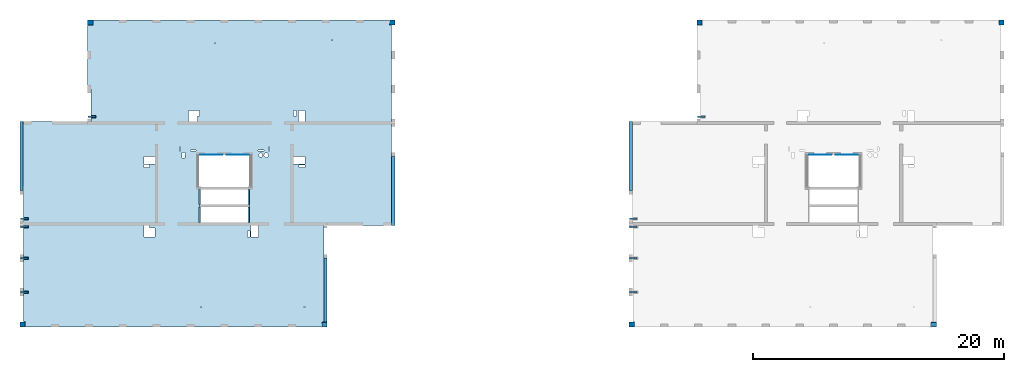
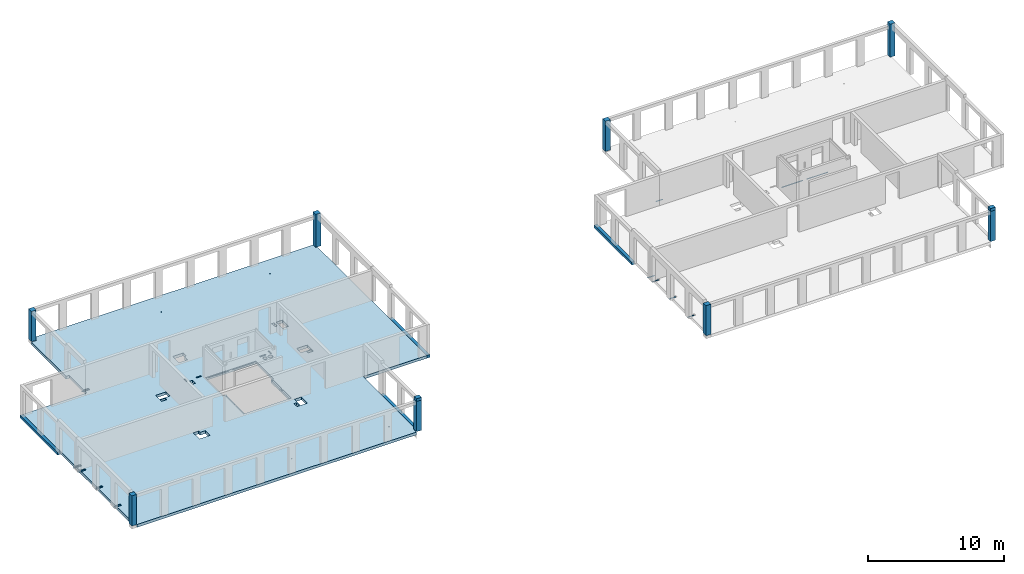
# One storey, part 1 of 8: 14 beams, 10 columns, 5 slabs, 35 openings.
"""IFC2X3 building model written with IfcOpenShell, lengths in millimetres."""

from ifc_helpers import new_model, entity, si_unit, converted_unit, derived_unit, direction, frame, frame_2d, origin, origin_2d_with_axis, place, context, subcontext, project, spatial, polyline, rectangle, circle, outline, extrude, source, transform, mapped, material, layer, layer_set, layer_usage, type_object, type_shapes, element, save


model = new_model("IFC2X3")

# Units and contexts
model_context = context("Model", 3, precision=0.01, world=origin(), true_north=direction((6.12303176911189e-17, 1.0)))
body_context = subcontext(model_context, "Body", "Model", "MODEL_VIEW")
ifc_project = project(units=[si_unit("LENGTHUNIT", "METRE", prefix="MILLI"), si_unit("AREAUNIT", "SQUARE_METRE"), si_unit("VOLUMEUNIT", "CUBIC_METRE"), converted_unit("PLANEANGLEUNIT", "DEGREE", entity("IfcRatioMeasure", 0.0174532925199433), si_unit("PLANEANGLEUNIT", "RADIAN"), dimensions=[0, 0, 0, 0, 0, 0, 0]), si_unit("MASSUNIT", "GRAM", prefix="KILO"), derived_unit("MASSDENSITYUNIT", [(si_unit("MASSUNIT", "GRAM", prefix="KILO"), 1), (si_unit("LENGTHUNIT", "METRE"), -3)]), si_unit("TIMEUNIT", "SECOND"), si_unit("FREQUENCYUNIT", "HERTZ"), si_unit("THERMODYNAMICTEMPERATUREUNIT", "DEGREE_CELSIUS"), derived_unit("THERMALTRANSMITTANCEUNIT", [(si_unit("MASSUNIT", "GRAM", prefix="KILO"), 1), (si_unit("THERMODYNAMICTEMPERATUREUNIT", "KELVIN"), -1), (si_unit("TIMEUNIT", "SECOND"), -3)]), derived_unit("VOLUMETRICFLOWRATEUNIT", [(si_unit("LENGTHUNIT", "METRE"), 3), (si_unit("TIMEUNIT", "SECOND"), -1)]), si_unit("ELECTRICCURRENTUNIT", "AMPERE"), si_unit("ELECTRICVOLTAGEUNIT", "VOLT"), si_unit("POWERUNIT", "WATT"), si_unit("FORCEUNIT", "NEWTON", prefix="KILO"), si_unit("ILLUMINANCEUNIT", "LUX"), si_unit("LUMINOUSFLUXUNIT", "LUMEN"), si_unit("LUMINOUSINTENSITYUNIT", "CANDELA"), derived_unit("USERDEFINED", [(si_unit("MASSUNIT", "GRAM", prefix="KILO"), -1), (si_unit("LENGTHUNIT", "METRE"), -2), (si_unit("TIMEUNIT", "SECOND"), 3), (si_unit("LUMINOUSFLUXUNIT", "LUMEN"), 1)]), derived_unit("LINEARVELOCITYUNIT", [(si_unit("LENGTHUNIT", "METRE"), 1), (si_unit("TIMEUNIT", "SECOND"), -1)]), si_unit("PRESSUREUNIT", "PASCAL"), derived_unit("USERDEFINED", [(si_unit("LENGTHUNIT", "METRE"), -2), (si_unit("MASSUNIT", "GRAM", prefix="KILO"), 1), (si_unit("TIMEUNIT", "SECOND"), -2)])], contexts=[model_context])

# Site, building, storey
site_placement = place(None, origin())
site = spatial("IfcSite", under=ifc_project, at=site_placement, Name="Default", CompositionType="ELEMENT")
building_placement = place(site_placement, origin())
building = spatial("IfcBuilding", under=site, at=building_placement, Name="niet gebruiken", CompositionType="ELEMENT")
storey_placement = place(building_placement, frame((0.0, 0.0, 42300.0)))
storey = spatial("IfcBuildingStorey", under=building, at=storey_placement, Name="14 veertiende verdieping", CompositionType="ELEMENT", Elevation=42300.0)

# Columns
ifc_material_1 = material(Name="NLRS_f2_beton prefab")
column_type_1 = type_object("IfcColumnType", Name="410x410", PredefinedType="COLUMN", material=ifc_material_1)
shared_shape_1 = source(origin(), body_context, "Body", "SweptSolid", [
    extrude(rectangle(XDim=410.0, YDim=410.0, at=origin_2d_with_axis()), frame((0.0, 0.0, 42230.0), z_axis=(0.0, 0.0, 1.0), x_axis=(0.0, -1.0, 0.0)), (0.0, 0.0, 1.0), 2699.99999999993),
])
type_shapes(column_type_1, [shared_shape_1])
for number, where, name in (
    (1, (99795.0, 28961.0, -42300.0), "NLRS_28. kolom vierkant_gen:410x410"),
    (2, (81105.0, 53051.0, -42300.0), "NLRS_28. kolom vierkant_gen:410x410"),
    (3, (51195.0, 28961.0, -42300.0), "NLRS_28. kolom vierkant_gen:410x410"),
    (4, (32505.0, 53051.0, -42300.0), "NLRS_28. kolom vierkant_gen:410x410"),
):
    element("IfcColumn", number, at=place(storey_placement, frame(where)), inside=storey, type_object=column_type_1, material=ifc_material_1, Name=name, ObjectType="410x410", context=body_context, shape_type="MappedRepresentation", body=[
        mapped(shared_shape_1, transform((0.0, 0.0, 0.0), scale=1.0)),
    ])
column_type_2 = type_object("IfcColumnType", Name="410x410", PredefinedType="COLUMN", material=ifc_material_1)
shared_shape_2 = source(origin(), body_context, "Body", "SweptSolid", [
    extrude(rectangle(XDim=410.0, YDim=410.0, at=origin_2d_with_axis()), frame((0.0, 0.0, 42230.0), z_axis=(0.0, 0.0, 1.0), x_axis=(0.0, -1.0, 0.0)), (0.0, 0.0, 1.0), 2700.0),
])
type_shapes(column_type_2, [shared_shape_2])
for number, where, z_axis, x_axis, name in (
    (5, (75705.0, 28961.0, -42300.0), (0.0, 0.0, 1.0), (0.0, 1.0, 0.0), "NLRS_28. kolom vierkant_gen1:410x410"),
    (6, (27105.0, 28961.0, -42300.0), (0.0, 0.0, 1.0), (0.0, 1.0, 0.0), "NLRS_28. kolom vierkant_gen1:410x410"),
):
    element("IfcColumn", number, at=place(storey_placement, frame(where, z_axis=z_axis, x_axis=x_axis)), inside=storey, type_object=column_type_2, material=ifc_material_1, Name=name, ObjectType="410x410", context=body_context, shape_type="MappedRepresentation", body=[
        mapped(shared_shape_2, transform((0.0, 0.0, 0.0), scale=1.0)),
    ])
column_type_3 = type_object("IfcColumnType", Name="410x410", PredefinedType="COLUMN", material=ifc_material_1)
shared_shape_3 = source(origin(), body_context, "Body", "SweptSolid", [
    extrude(rectangle(XDim=410.000000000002, YDim=409.999999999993, at=origin_2d_with_axis()), frame((105195.0, 53051.0, 42230.0), z_axis=(0.0, 0.0, 1.0), x_axis=(0.0, -1.0, 0.0)), (0.0, 0.0, 1.0), 2950.00000000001),
])
type_shapes(column_type_3, [shared_shape_3])
column_1_placement = place(storey_placement, frame((0.0, 0.0, -42300.0)))
element("IfcColumn", 7, at=column_1_placement, inside=storey, type_object=column_type_3, material=ifc_material_1, Name="NLRS_28. kolom vierkant_gen:410x410", ObjectType="410x410", context=body_context, shape_type="MappedRepresentation", body=[
    mapped(shared_shape_3, transform((0.0, 0.0, 0.0), scale=1.0)),
])
column_type_4 = type_object("IfcColumnType", Name="410x410", PredefinedType="COLUMN", material=ifc_material_1)
shared_shape_4 = source(origin(), body_context, "Body", "SweptSolid", [
    extrude(rectangle(XDim=410.000000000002, YDim=410.000000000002, at=frame_2d((8.66862137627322e-12, 0.0), x_axis=(1.0, 0.0))), frame((56595.0, 53051.0, 42230.0), z_axis=(0.0, 0.0, 1.0), x_axis=(0.0, -1.0, 0.0)), (0.0, 0.0, 1.0), 2950.00000000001),
])
type_shapes(column_type_4, [shared_shape_4])
column_2_placement = place(storey_placement, frame((0.0, 0.0, -42300.0)))
element("IfcColumn", 8, at=column_2_placement, inside=storey, type_object=column_type_4, material=ifc_material_1, Name="NLRS_28. kolom vierkant_gen:410x410", ObjectType="410x410", context=body_context, shape_type="MappedRepresentation", body=[
    mapped(shared_shape_4, transform((0.0, 0.0, 0.0), scale=1.0)),
])
column_type_5 = type_object("IfcColumnType", Name="410x360", PredefinedType="COLUMN", material=ifc_material_1)
shared_shape_5 = source(origin(), body_context, "Body", "SweptSolid", [
    extrude(rectangle(XDim=360.0, YDim=409.999999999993, at=origin_2d_with_axis()), frame((99795.0, 28936.0, 44930.0), z_axis=(0.0, 0.0, 1.0), x_axis=(0.0, -1.0, 0.0)), (0.0, 0.0, 1.0), 250.000000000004),
])
type_shapes(column_type_5, [shared_shape_5])
column_3_placement = place(storey_placement, frame((0.0, 0.0, -42300.0)))
element("IfcColumn", 9, at=column_3_placement, inside=storey, type_object=column_type_5, material=ifc_material_1, Name="NLRS_28. kolom vierkant_gen:410x360", ObjectType="410x360", context=body_context, shape_type="MappedRepresentation", body=[
    mapped(shared_shape_5, transform((0.0, 0.0, 0.0), scale=1.0)),
])
column_type_6 = type_object("IfcColumnType", Name="410x360", PredefinedType="COLUMN", material=ifc_material_1)
shared_shape_6 = source(origin(), body_context, "Body", "SweptSolid", [
    extrude(rectangle(XDim=360.0, YDim=410.000000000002, at=origin_2d_with_axis()), frame((51195.0, 28936.0, 44930.0), z_axis=(0.0, 0.0, 1.0), x_axis=(0.0, -1.0, 0.0)), (0.0, 0.0, 1.0), 250.000000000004),
])
type_shapes(column_type_6, [shared_shape_6])
column_4_placement = place(storey_placement, frame((0.0, 0.0, -42300.0)))
element("IfcColumn", 10, at=column_4_placement, inside=storey, type_object=column_type_6, material=ifc_material_1, Name="NLRS_28. kolom vierkant_gen:410x360", ObjectType="410x360", context=body_context, shape_type="MappedRepresentation", body=[
    mapped(shared_shape_6, transform((0.0, 0.0, 0.0), scale=1.0)),
])

# Beams
ifc_material_2 = material(Name="NLRS_h2_staal")
beam_type_1 = type_object("IfcBeamType", Name="ligger stripstaal RECT_120x10", PredefinedType="BEAM", material=ifc_material_2)
shared_shape_7 = source(origin(), body_context, "Body", "SweptSolid", [
    extrude(rectangle(XDim=599.999999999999, YDim=120.0, at=origin_2d_with_axis()), frame((0.0, 0.0, -5.0), z_axis=(0.0, 0.0, 1.0), x_axis=(-1.0, 0.0, 0.0)), (0.0, 0.0, 1.0), 9.99999999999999),
    extrude(rectangle(XDim=599.999999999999, YDim=120.0, at=origin_2d_with_axis()), frame((0.0, 0.0, -5.0), z_axis=(0.0, 0.0, 1.0), x_axis=(-1.0, 0.0, 0.0)), (0.0, 0.0, 1.0), 9.99999999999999),
])
type_shapes(beam_type_1, [shared_shape_7])
for number, where, name in (
    (11, (75835.0, 31556.0, -115.0), "NLRS_28.11_SF_WPB_stalen ligger stripstaal_gen:ligger stripstaal RECT_120x10"),
    (12, (75835.0, 34256.0, -115.0), "NLRS_28.11_SF_WPB_stalen ligger stripstaal_gen:ligger stripstaal RECT_120x10"),
    (13, (75835.0, 36766.0, -115.0), "NLRS_28.11_SF_WPB_stalen ligger stripstaal_gen:ligger stripstaal RECT_120x10"),
    (14, (27235.0, 31556.0, -115.0), "NLRS_28.11_SF_WPB_stalen ligger stripstaal_gen:ligger stripstaal RECT_120x10"),
    (15, (27235.0, 34256.0, -115.0), "NLRS_28.11_SF_WPB_stalen ligger stripstaal_gen:ligger stripstaal RECT_120x10"),
    (16, (27235.0, 36766.0, -115.0), "NLRS_28.11_SF_WPB_stalen ligger stripstaal_gen:ligger stripstaal RECT_120x10"),
):
    element("IfcBeam", number, at=place(storey_placement, frame(where)), inside=storey, type_object=beam_type_1, material=ifc_material_2, Name=name, ObjectType="ligger stripstaal RECT_120x10", context=body_context, shape_type="MappedRepresentation", body=[
        mapped(shared_shape_7, transform((0.0, 0.0, 0.0), scale=1.0)),
    ])
beam_type_2 = type_object("IfcBeamType", Name="NLRS_28.11_SF_WPB_Halfen 40-22_gen:ligger stripstaal RECT_100x10", PredefinedType="BEAM")
beam_1_placement = place(storey_placement, frame((89865.0, 42496.0, -160.0)))
element("IfcBeam", 17, at=beam_1_placement, inside=storey, type_object=beam_type_2, material=ifc_material_2, Name="NLRS_28.11_SF_WPB_Halfen 40-22_gen:ligger stripstaal RECT_100x10", ObjectType="NLRS_28.11_SF_WPB_Halfen 40-22_gen:ligger stripstaal RECT_100x10", context=body_context, shape_type="SweptSolid", body=[
    extrude(outline(polyline([(-20.0, -8.0), (-9.0, -8.0), (-9.0, 0.0), (-11.0, 0.0), (-11.0, -6.0), (-18.0, -6.0), (-18.0, 13.0), (18.0, 13.0), (18.0, -6.0), (11.0, -6.0), (11.0, 0.0), (9.0, 0.0), (9.0, -8.0), (20.0, -8.0), (20.0, 15.0), (-20.0, 15.0), (-20.0, -8.0)])), frame((0.0, 8.0, 20.0), z_axis=(1.0, 0.0, 0.0), x_axis=(0.0, 0.0, -1.0)), (0.0, 0.0, 1.0), 1760.00000000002),
])
beam_2_placement = place(storey_placement, frame((91975.0, 42496.0, -160.0)))
element("IfcBeam", 18, at=beam_2_placement, inside=storey, type_object=beam_type_2, material=ifc_material_2, Name="NLRS_28.11_SF_WPB_Halfen 40-22_gen:ligger stripstaal RECT_100x10", ObjectType="NLRS_28.11_SF_WPB_Halfen 40-22_gen:ligger stripstaal RECT_100x10", context=body_context, shape_type="SweptSolid", body=[
    extrude(outline(polyline([(-20.0, -8.0), (-9.0, -8.0), (-9.0, 0.0), (-11.0, 0.0), (-11.0, -6.0), (-18.0, -6.0), (-18.0, 13.0), (18.0, 13.0), (18.0, -6.0), (11.0, -6.0), (11.0, 0.0), (9.0, 0.0), (9.0, -8.0), (20.0, -8.0), (20.0, 15.0), (-20.0, 15.0), (-20.0, -8.0)])), frame((0.0, 8.0, 20.0), z_axis=(1.0, 0.0, 0.0), x_axis=(0.0, 0.0, -1.0)), (0.0, 0.0, 1.0), 1760.0),
])
for number, where, name in (
    (19, (41264.9998491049, 42496.0, -160.0), "NLRS_28.11_SF_WPB_Halfen 40-22_gen:ligger stripstaal RECT_100x10"),
    (20, (43374.999849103, 42496.0, -160.0), "NLRS_28.11_SF_WPB_Halfen 40-22_gen:ligger stripstaal RECT_100x10"),
):
    element("IfcBeam", number, at=place(storey_placement, frame(where)), inside=storey, type_object=beam_type_2, material=ifc_material_2, Name=name, ObjectType="NLRS_28.11_SF_WPB_Halfen 40-22_gen:ligger stripstaal RECT_100x10", context=body_context, shape_type="SweptSolid", body=[
        extrude(outline(polyline([(-20.0, -8.0), (-9.0, -8.0), (-9.0, 0.0), (-11.0, 0.0), (-11.0, -6.0), (-18.0, -6.0), (-18.0, 13.0), (18.0, 13.0), (18.0, -6.0), (11.0, -6.0), (11.0, 0.0), (9.0, 0.0), (9.0, -8.0), (20.0, -8.0), (20.0, 15.0), (-20.0, 15.0), (-20.0, -8.0)])), frame((0.0, 8.0, 20.0), z_axis=(1.0, 0.0, 0.0), x_axis=(0.0, 0.0, -1.0)), (0.0, 0.0, 1.0), 1760.00000000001),
    ])
beam_type_3 = type_object("IfcBeamType", Name="ligger stripstaal RECT_120x10", PredefinedType="BEAM", material=ifc_material_2)
shared_shape_8 = source(origin(), body_context, "Body", "SweptSolid", [
    extrude(rectangle(XDim=120.0, YDim=600.000000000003, at=origin_2d_with_axis()), frame((0.0, 0.0, -5.0), z_axis=(0.0, 0.0, 1.0), x_axis=(0.0, 1.0, 0.0)), (0.0, 0.0, 1.0), 9.99999999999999),
    extrude(rectangle(XDim=120.0, YDim=600.000000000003, at=origin_2d_with_axis()), frame((0.0, 0.0, -5.0), z_axis=(0.0, 0.0, 1.0), x_axis=(0.0, 1.0, 0.0)), (0.0, 0.0, 1.0), 9.99999999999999),
])
type_shapes(beam_type_3, [shared_shape_8])
for number, where, name in (
    (21, (75835.0, 37386.0, -115.0), "NLRS_28.11_SF_WPB_stalen ligger stripstaal_gen:ligger stripstaal RECT_120x10"),
    (22, (81235.0, 45521.0, -115.0), "NLRS_28.11_SF_WPB_stalen ligger stripstaal_gen:ligger stripstaal RECT_120x10"),
    (23, (27235.0, 37386.0, -115.0), "NLRS_28.11_SF_WPB_stalen ligger stripstaal_gen:ligger stripstaal RECT_120x10"),
    (24, (32635.0, 45521.0, -115.0), "NLRS_28.11_SF_WPB_stalen ligger stripstaal_gen:ligger stripstaal RECT_120x10"),
):
    element("IfcBeam", number, at=place(storey_placement, frame(where)), inside=storey, type_object=beam_type_3, material=ifc_material_2, Name=name, ObjectType="ligger stripstaal RECT_120x10", context=body_context, shape_type="MappedRepresentation", body=[
        mapped(shared_shape_8, transform((0.0, 0.0, 0.0), scale=1.0)),
    ])

# Slab, openings
ifc_material_3 = material(Name="NLRS_f2_beton ihwg")
ifc_layer = layer(ifc_material_3, 250.0)
ifc_layer_set = layer_set([ifc_layer], Name="Floor:NLRS_23.21_FL_beton ihwg d=250_gen")
ifc_layer_usage_1 = layer_usage(ifc_layer_set, "AXIS3", "POSITIVE", 0.0)
slab_1_placement = place(storey_placement, frame((27150.0, 28756.0, -340.0)))
slab_1 = element("IfcSlab", 25, at=slab_1_placement, inside=storey, material=ifc_layer_usage_1, Name="Floor:NLRS_23.21_FL_beton ihwg d=250_gen", ObjectType="Floor:NLRS_23.21_FL_beton ihwg d=250_gen", PredefinedType="FLOOR", context=body_context, shape_type="SweptSolid", body=[
    extrude(outline(polyline([(9119.99996701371, 12250.0), (-14540.0, 12250.0), (-14540.0, 11840.0), (-14680.0, 11840.0), (-14680.0, 4060.0), (-14700.0, 4060.0), (-14700.0, -4150.0), (-9300.0, -4150.0), (-9300.0, -11890.0), (-9140.0, -11890.0), (-9140.0, -12250.0), (14520.0, -12250.0), (14520.0, -11820.0), (14660.0, -11820.0), (14660.0, -4060.0), (14680.0, -4060.0), (14680.0, -1040.0), (14950.0, -1040.0), (14950.0, 4150.0), (9280.0, 4150.0), (9280.0, 6750.0), (9550.0, 6750.0), (9550.0, 11820.0), (9119.99996701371, 11820.0), (9119.99996701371, 12250.0)])), frame((14700.0, 12250.0, 250.0), z_axis=(0.0, 0.0, -1.0), x_axis=(-1.0, 0.0, 0.0)), (0.0, 0.0, 1.0), 250.000000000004),
])
opening_1_placement = place(storey_placement, frame((27150.0, 28756.0, -340.0)))
element("IfcOpeningElement", 26, at=opening_1_placement, cuts=slab_1, ObjectType="Opening", context=body_context, shape_type="SweptSolid", body=[
    extrude(circle(Radius=37.5, at=frame_2d((-7750.0, -10650.0), x_axis=(1.0, 0.0))), frame((14700.0, 12250.0, 250.0), z_axis=(0.0, 0.0, -1.0), x_axis=(-1.0, 0.0, 0.0)), (0.0, 0.0, 1.0), 250.000000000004),
])
opening_2_placement = place(storey_placement, frame((27150.0, 28756.0, -340.0)))
element("IfcOpeningElement", 27, at=opening_2_placement, cuts=slab_1, ObjectType="Opening", context=body_context, shape_type="SweptSolid", body=[
    extrude(circle(Radius=37.5, at=frame_2d((-9950.0, 10650.0), x_axis=(1.0, 0.0))), frame((14700.0, 12250.0, 250.0), z_axis=(0.0, 0.0, -1.0), x_axis=(-1.0, 0.0, 0.0)), (0.0, 0.0, 1.0), 250.000000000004),
])
opening_3_placement = place(storey_placement, frame((27150.0, 28756.0, -340.0)))
element("IfcOpeningElement", 28, at=opening_3_placement, cuts=slab_1, ObjectType="Opening", context=body_context, shape_type="SweptSolid", body=[
    extrude(circle(Radius=37.5, at=frame_2d((-600.0, 10400.0), x_axis=(1.0, 0.0))), frame((14700.0, 12250.0, 250.0), z_axis=(0.0, 0.0, -1.0), x_axis=(-1.0, 0.0, 0.0)), (0.0, 0.0, 1.0), 250.000000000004),
])
opening_4_placement = place(storey_placement, frame((27150.0, 28756.0, -340.0)))
element("IfcOpeningElement", 29, at=opening_4_placement, cuts=slab_1, ObjectType="Opening", context=body_context, shape_type="SweptSolid", body=[
    extrude(circle(Radius=37.5, at=frame_2d((500.0, -10650.0), x_axis=(1.0, 0.0))), frame((14700.0, 12250.0, 250.0), z_axis=(0.0, 0.0, -1.0), x_axis=(-1.0, 0.0, 0.0)), (0.0, 0.0, 1.0), 250.000000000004),
])
opening_5_placement = place(slab_1_placement, origin())
element("IfcOpeningElement", 30, at=opening_5_placement, cuts=slab_1, ObjectType="Opening", context=body_context, shape_type="SweptSolid", body=[
    extrude(rectangle(XDim=110.000000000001, YDim=1220.0, at=origin_2d_with_axis()), frame((14094.9999671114, 10380.0, 210.0)), (0.0, 0.0, 1.0), 39.9999999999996),
])
opening_6_placement = place(slab_1_placement, origin())
element("IfcOpeningElement", 31, at=opening_6_placement, cuts=slab_1, ObjectType="Opening", context=body_context, shape_type="SweptSolid", body=[
    extrude(rectangle(XDim=110.000000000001, YDim=1220.0, at=origin_2d_with_axis()), frame((18005.0, 10380.0, 210.0)), (0.0, 0.0, 1.0), 39.9999999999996),
])
opening_7_placement = place(slab_1_placement, origin())
element("IfcOpeningElement", 32, at=opening_7_placement, cuts=slab_1, ObjectType="Opening", context=body_context, shape_type="SweptSolid", body=[
    extrude(rectangle(XDim=110.000000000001, YDim=1220.0, at=origin_2d_with_axis()), frame((18005.0, 8960.0, 210.0)), (0.0, 0.0, 1.0), 39.9999999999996),
])
opening_8_placement = place(slab_1_placement, origin())
element("IfcOpeningElement", 33, at=opening_8_placement, cuts=slab_1, ObjectType="Opening", context=body_context, shape_type="SweptSolid", body=[
    extrude(rectangle(XDim=110.000000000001, YDim=1220.0, at=origin_2d_with_axis()), frame((14094.9999671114, 8960.0, 210.0)), (0.0, 0.0, 1.0), 39.9999999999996),
])
opening_9_placement = place(slab_1_placement, origin())
element("IfcOpeningElement", 34, at=opening_9_placement, cuts=slab_1, ObjectType="Opening", context=body_context, shape_type="SweptSolid", body=[
    extrude(rectangle(XDim=400.000000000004, YDim=200.000000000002, at=origin_2d_with_axis()), frame((220.0, 8630.0, 220.0)), (0.0, 0.0, 1.0), 30.0000000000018),
])
opening_10_placement = place(slab_1_placement, origin())
element("IfcOpeningElement", 35, at=opening_10_placement, cuts=slab_1, ObjectType="Opening", context=body_context, shape_type="SweptSolid", body=[
    extrude(rectangle(XDim=200.000000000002, YDim=400.000000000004, at=origin_2d_with_axis()), frame((240.0, 8000.0, 220.0), z_axis=(0.0, 0.0, 1.0), x_axis=(0.0, -1.0, 0.0)), (0.0, 0.0, 1.0), 30.0000000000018),
])
opening_11_placement = place(slab_1_placement, origin())
element("IfcOpeningElement", 36, at=opening_11_placement, cuts=slab_1, ObjectType="Opening", context=body_context, shape_type="SweptSolid", body=[
    extrude(rectangle(XDim=200.000000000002, YDim=400.000000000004, at=origin_2d_with_axis()), frame((240.0, 5500.0, 220.0), z_axis=(0.0, 0.0, 1.0), x_axis=(0.0, -1.0, 0.0)), (0.0, 0.0, 1.0), 30.0000000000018),
])
opening_12_placement = place(slab_1_placement, origin())
element("IfcOpeningElement", 37, at=opening_12_placement, cuts=slab_1, ObjectType="Opening", context=body_context, shape_type="SweptSolid", body=[
    extrude(rectangle(XDim=200.000000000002, YDim=400.000000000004, at=origin_2d_with_axis()), frame((240.0, 2800.0, 220.0), z_axis=(0.0, 0.0, 1.0), x_axis=(0.0, -1.0, 0.0)), (0.0, 0.0, 1.0), 30.0000000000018),
])
opening_13_placement = place(slab_1_placement, origin())
element("IfcOpeningElement", 38, at=opening_13_placement, cuts=slab_1, ObjectType="Opening", context=body_context, shape_type="SweptSolid", body=[
    extrude(rectangle(XDim=400.000000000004, YDim=199.999999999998, at=origin_2d_with_axis()), frame((5620.0, 16765.0, 220.0)), (0.0, 0.0, 1.0), 30.0000000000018),
])
opening_14_placement = place(slab_1_placement, origin())
element("IfcOpeningElement", 39, at=opening_14_placement, cuts=slab_1, ObjectType="Opening", context=body_context, shape_type="SweptSolid", body=[
    extrude(rectangle(XDim=900.000000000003, YDim=729.999999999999, at=origin_2d_with_axis()), frame((13550.0, 16850.0, 0.0), z_axis=(0.0, 0.0, 1.0), x_axis=(0.0, 1.0, 0.0)), (0.0, 0.0, 1.0), 250.000000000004),
])
opening_15_placement = place(slab_1_placement, origin())
element("IfcOpeningElement", 40, at=opening_15_placement, cuts=slab_1, ObjectType="Opening", context=body_context, shape_type="SweptSolid", body=[
    extrude(rectangle(XDim=170.000000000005, YDim=450.000000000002, at=origin_2d_with_axis()), frame((14000.0, 17075.0, 0.0), z_axis=(0.0, 0.0, 1.0), x_axis=(-1.0, 0.0, 0.0)), (0.0, 0.0, 1.0), 250.000000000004),
])
opening_16_placement = place(slab_1_placement, origin())
element("IfcOpeningElement", 41, at=opening_16_placement, cuts=slab_1, ObjectType="Opening", context=body_context, shape_type="SweptSolid", body=[
    extrude(rectangle(XDim=900.000000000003, YDim=700.000000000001, at=origin_2d_with_axis()), frame((10075.0, 7550.0, 0.0), z_axis=(0.0, 0.0, 1.0), x_axis=(-1.0, 0.0, 0.0)), (0.0, 0.0, 1.0), 250.000000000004),
])
opening_17_placement = place(slab_1_placement, origin())
element("IfcOpeningElement", 42, at=opening_17_placement, cuts=slab_1, ObjectType="Opening", context=body_context, shape_type="SweptSolid", body=[
    extrude(rectangle(XDim=200.000000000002, YDim=450.000000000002, at=origin_2d_with_axis()), frame((9850.0, 8000.0, 0.0), z_axis=(0.0, 0.0, 1.0), x_axis=(0.0, -1.0, 0.0)), (0.0, 0.0, 1.0), 250.000000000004),
])
opening_18_placement = place(slab_1_placement, origin())
element("IfcOpeningElement", 43, at=opening_18_placement, cuts=slab_1, ObjectType="Opening", context=body_context, shape_type="SweptSolid", body=[
    extrude(rectangle(XDim=900.000000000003, YDim=600.000000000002, at=origin_2d_with_axis()), frame((10075.0, 13330.0, 0.0), z_axis=(0.0, 0.0, 1.0), x_axis=(-1.0, 0.0, 0.0)), (0.0, 0.0, 1.0), 250.000000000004),
])
opening_19_placement = place(slab_1_placement, origin())
element("IfcOpeningElement", 44, at=opening_19_placement, cuts=slab_1, ObjectType="Opening", context=body_context, shape_type="SweptSolid", body=[
    extrude(rectangle(XDim=900.000000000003, YDim=499.999999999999, at=origin_2d_with_axis()), frame((22225.0, 16850.0, 0.0), z_axis=(0.0, 0.0, 1.0), x_axis=(0.0, 1.0, 0.0)), (0.0, 0.0, 1.0), 250.000000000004),
])
opening_20_placement = place(slab_1_placement, origin())
element("IfcOpeningElement", 45, at=opening_20_placement, cuts=slab_1, ObjectType="Opening", context=body_context, shape_type="SweptSolid", body=[
    extrude(rectangle(XDim=899.999999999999, YDim=600.000000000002, at=origin_2d_with_axis()), frame((18479.9818996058, 7650.0, 0.0), z_axis=(0.0, 0.0, 1.0), x_axis=(0.0, 1.0, 0.0)), (0.0, 0.0, 1.0), 250.000000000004),
])
opening_21_placement = place(slab_1_placement, origin())
element("IfcOpeningElement", 46, at=opening_21_placement, cuts=slab_1, ObjectType="Opening", context=body_context, shape_type="SweptSolid", body=[
    extrude(rectangle(XDim=900.000000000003, YDim=600.000000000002, at=origin_2d_with_axis()), frame((22025.0, 13330.0, 0.0), z_axis=(0.0, 0.0, 1.0), x_axis=(-1.0, 0.0, 0.0)), (0.0, 0.0, 1.0), 250.000000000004),
])
opening_22_placement = place(slab_1_placement, origin())
element("IfcOpeningElement", 47, at=opening_22_placement, cuts=slab_1, ObjectType="Opening", context=body_context, shape_type="SweptSolid", body=[
    extrude(rectangle(XDim=1760.00000000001, YDim=23.0000000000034, at=origin_2d_with_axis()), frame((14994.9998491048, 13751.5, 180.0)), (0.0, 0.0, 1.0), 40.0000000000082),
])
opening_23_placement = place(slab_1_placement, origin())
element("IfcOpeningElement", 48, at=opening_23_placement, cuts=slab_1, ObjectType="Opening", context=body_context, shape_type="SweptSolid", body=[
    extrude(rectangle(XDim=1760.00000000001, YDim=23.0000000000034, at=origin_2d_with_axis()), frame((17104.999849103, 13751.5, 180.0)), (0.0, 0.0, 1.0), 40.0000000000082),
])
opening_24_placement = place(slab_1_placement, origin())
element("IfcOpeningElement", 49, at=opening_24_placement, cuts=slab_1, ObjectType="Opening", context=body_context, shape_type="SweptSolid", body=[
    extrude(rectangle(XDim=100.000000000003, YDim=340.000000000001, at=origin_2d_with_axis()), frame((19615.0, 14210.0, 0.0), z_axis=(0.0, 0.0, 1.0), x_axis=(-1.0, 0.0, 0.0)), (0.0, 0.0, 1.0), 250.000000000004),
])
opening_25_placement = place(slab_1_placement, origin())
element("IfcOpeningElement", 50, at=opening_25_placement, cuts=slab_1, ObjectType="Opening", context=body_context, shape_type="SweptSolid", body=[
    extrude(rectangle(XDim=100.000000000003, YDim=490.000000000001, at=origin_2d_with_axis()), frame((18975.0, 14090.0, 0.0), z_axis=(0.0, 0.0, 1.0), x_axis=(0.0, -1.0, 0.0)), (0.0, 0.0, 1.0), 250.000000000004),
])
opening_26_placement = place(slab_1_placement, origin())
element("IfcOpeningElement", 51, at=opening_26_placement, cuts=slab_1, ObjectType="Opening", context=body_context, shape_type="SweptSolid", body=[
    extrude(rectangle(XDim=100.000000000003, YDim=440.000000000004, at=origin_2d_with_axis()), frame((13555.0, 14090.0, 0.0), z_axis=(0.0, 0.0, 1.0), x_axis=(0.0, -1.0, 0.0)), (0.0, 0.0, 1.0), 250.000000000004),
])
opening_27_placement = place(slab_1_placement, origin())
element("IfcOpeningElement", 52, at=opening_27_placement, cuts=slab_1, ObjectType="Opening", context=body_context, shape_type="SweptSolid", body=[
    extrude(rectangle(XDim=100.000000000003, YDim=340.000000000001, at=origin_2d_with_axis()), frame((12505.0, 14210.0, 0.0), z_axis=(0.0, 0.0, 1.0), x_axis=(-1.0, 0.0, 0.0)), (0.0, 0.0, 1.0), 250.000000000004),
])
opening_28_placement = place(slab_1_placement, origin())
element("IfcOpeningElement", 53, at=opening_28_placement, cuts=slab_1, ObjectType="Opening", context=body_context, shape_type="SweptSolid", body=[
    extrude(rectangle(XDim=230.0, YDim=450.000000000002, at=origin_2d_with_axis()), frame((9850.00008659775, 12845.0002270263, 0.0), z_axis=(0.0, 0.0, 1.0), x_axis=(0.0, -1.0, 0.0)), (0.0, 0.0, 1.0), 250.000000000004),
])
opening_29_placement = place(slab_1_placement, origin())
element("IfcOpeningElement", 54, at=opening_29_placement, cuts=slab_1, ObjectType="Opening", context=body_context, shape_type="SweptSolid", body=[
    extrude(rectangle(XDim=220.000000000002, YDim=450.000000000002, at=origin_2d_with_axis()), frame((21685.0, 17075.0, 0.0), z_axis=(0.0, 0.0, 1.0), x_axis=(-1.0, 0.0, 0.0)), (0.0, 0.0, 1.0), 250.000000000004),
])
opening_30_placement = place(slab_1_placement, origin())
element("IfcOpeningElement", 55, at=opening_30_placement, cuts=slab_1, ObjectType="Opening", context=body_context, shape_type="SweptSolid", body=[
    extrude(rectangle(XDim=220.000000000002, YDim=450.000000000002, at=origin_2d_with_axis()), frame((22250.0, 12840.0, 0.0), z_axis=(0.0, 0.0, 1.0), x_axis=(0.0, -1.0, 0.0)), (0.0, 0.0, 1.0), 250.000000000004),
])
opening_31_placement = place(slab_1_placement, origin())
element("IfcOpeningElement", 56, at=opening_31_placement, cuts=slab_1, ObjectType="Opening", context=body_context, shape_type="SweptSolid", body=[
    extrude(rectangle(XDim=220.000000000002, YDim=450.000000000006, at=origin_2d_with_axis()), frame((17990.0, 7425.0, 0.0)), (0.0, 0.0, 1.0), 250.000000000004),
])
opening_32_placement = place(slab_1_placement, origin())
element("IfcOpeningElement", 57, at=opening_32_placement, cuts=slab_1, ObjectType="Opening", context=body_context, shape_type="SweptSolid", body=[
    extrude(rectangle(XDim=250.000000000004, YDim=440.000000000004, at=origin_2d_with_axis()), frame((12805.0, 13720.0, 0.0)), (0.0, 0.0, 1.0), 250.000000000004),
])
opening_33_placement = place(slab_1_placement, origin())
element("IfcOpeningElement", 58, at=opening_33_placement, cuts=slab_1, ObjectType="Opening", context=body_context, shape_type="SweptSolid", body=[
    extrude(circle(Radius=157.5, at=origin_2d_with_axis()), frame((18950.0, 13720.0, 0.0)), (0.0, 0.0, 1.0), 250.000000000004),
])
opening_34_placement = place(slab_1_placement, origin())
element("IfcOpeningElement", 59, at=opening_34_placement, cuts=slab_1, ObjectType="Opening", context=body_context, shape_type="SweptSolid", body=[
    extrude(circle(Radius=177.5, at=origin_2d_with_axis()), frame((19400.0, 13720.0, 0.0)), (0.0, 0.0, 1.0), 250.000000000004),
])
opening_35_placement = place(slab_1_placement, frame((16050.0, 10378.75, 250.0)))
element("IfcOpeningElement", 60, at=opening_35_placement, cuts=slab_1, Name="Floor:NLRS_23.21_FL_beton ihwg d=250_gen:2", ObjectType="Opening", context=body_context, shape_type="SweptSolid", body=[
    extrude(outline(polyline([(-1899.99998355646, -2028.75000000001), (1900.00001644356, -2028.75000000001), (1900.00001644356, -808.750000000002), (1999.9999835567, -808.750000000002), (1999.9999835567, -608.75), (1900.00001644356, -608.75), (1900.00001644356, 751.250000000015), (2134.99998355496, 751.250000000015), (2134.99998355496, 3361.24999999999), (-2135.00001644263, 3361.24999999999), (-2135.00001644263, 751.250000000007), (-1899.99998355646, 751.250000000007), (-1899.99998355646, -608.750000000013), (-2000.00001644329, -608.750000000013), (-2000.00001644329, -808.750000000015), (-1899.99998355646, -808.750000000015), (-1899.99998355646, -2028.75000000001)])), frame((0.0, 0.0, 0.0), z_axis=(0.0, 0.0, -1.0), x_axis=(-1.0, 0.0, 0.0)), (0.0, 0.0, 1.0), 250.000000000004),
])

# Slabs
ifc_layer_usage_2 = layer_usage(ifc_layer_set, "AXIS3", "POSITIVE", 0.0)
slab_2_placement = place(storey_placement, origin())
element("IfcSlab", 61, at=slab_2_placement, inside=storey, material=ifc_layer_usage_2, Name="Floor:NLRS_23.21_FL_beton ihwg d=250_gen", ObjectType="Floor:NLRS_23.21_FL_beton ihwg d=250_gen", PredefinedType="FLOOR", context=body_context, shape_type="SweptSolid", body=[
    extrude(rectangle(XDim=5499.99999999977, YDim=250.000000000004, at=frame_2d((0.0, 4.33431068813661e-12), x_axis=(1.0, 0.0))), frame((75625.0, 42406.0, -90.0), z_axis=(0.0, 0.0, -1.0), x_axis=(0.0, 1.0, 0.0)), (0.0, 0.0, 1.0), 250.000000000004),
])
ifc_layer_usage_3 = layer_usage(ifc_layer_set, "AXIS3", "POSITIVE", 0.0)
slab_3_placement = place(storey_placement, origin())
element("IfcSlab", 62, at=slab_3_placement, inside=storey, material=ifc_layer_usage_3, Name="Floor:NLRS_23.21_FL_beton ihwg d=250_gen", ObjectType="Floor:NLRS_23.21_FL_beton ihwg d=250_gen", PredefinedType="FLOOR", context=body_context, shape_type="SweptSolid", body=[
    extrude(rectangle(XDim=5499.99999999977, YDim=250.000000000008, at=frame_2d((0.0, 2.16715534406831e-12), x_axis=(1.0, 0.0))), frame((27025.0, 42406.0, -90.0), z_axis=(0.0, 0.0, -1.0), x_axis=(0.0, 1.0, 0.0)), (0.0, 0.0, 1.0), 250.000000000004),
])
ifc_layer_usage_4 = layer_usage(ifc_layer_set, "AXIS3", "POSITIVE", 0.0)
slab_4_placement = place(storey_placement, origin())
element("IfcSlab", 63, at=slab_4_placement, inside=storey, material=ifc_layer_usage_4, Name="Floor:NLRS_23.21_FL_beton ihwg d=250_gen", ObjectType="Floor:NLRS_23.21_FL_beton ihwg d=250_gen", PredefinedType="FLOOR", context=body_context, shape_type="SweptSolid", body=[
    extrude(rectangle(XDim=5140.00000000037, YDim=250.000065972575, at=frame_2d((-2.27373675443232e-12, 0.0), x_axis=(1.0, 0.0))), frame((51275.0, 31686.0, -90.0), z_axis=(0.0, 0.0, -1.0), x_axis=(0.0, 1.0, 0.0)), (0.0, 0.0, 1.0), 250.000000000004),
])
ifc_layer_usage_5 = layer_usage(ifc_layer_set, "AXIS3", "POSITIVE", 0.0)
slab_5_placement = place(storey_placement, origin())
element("IfcSlab", 64, at=slab_5_placement, inside=storey, material=ifc_layer_usage_5, Name="Floor:NLRS_23.21_FL_beton ihwg d=250_gen", ObjectType="Floor:NLRS_23.21_FL_beton ihwg d=250_gen", PredefinedType="FLOOR", context=body_context, shape_type="SweptSolid", body=[
    extrude(rectangle(XDim=5500.00000000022, YDim=250.000000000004, at=frame_2d((0.0, -4.33431068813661e-12), x_axis=(1.0, 0.0))), frame((56675.0, 39606.0, -90.0), z_axis=(0.0, 0.0, -1.0), x_axis=(0.0, 1.0, 0.0)), (0.0, 0.0, 1.0), 250.000000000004),
])

save(model, "model.ifc")
